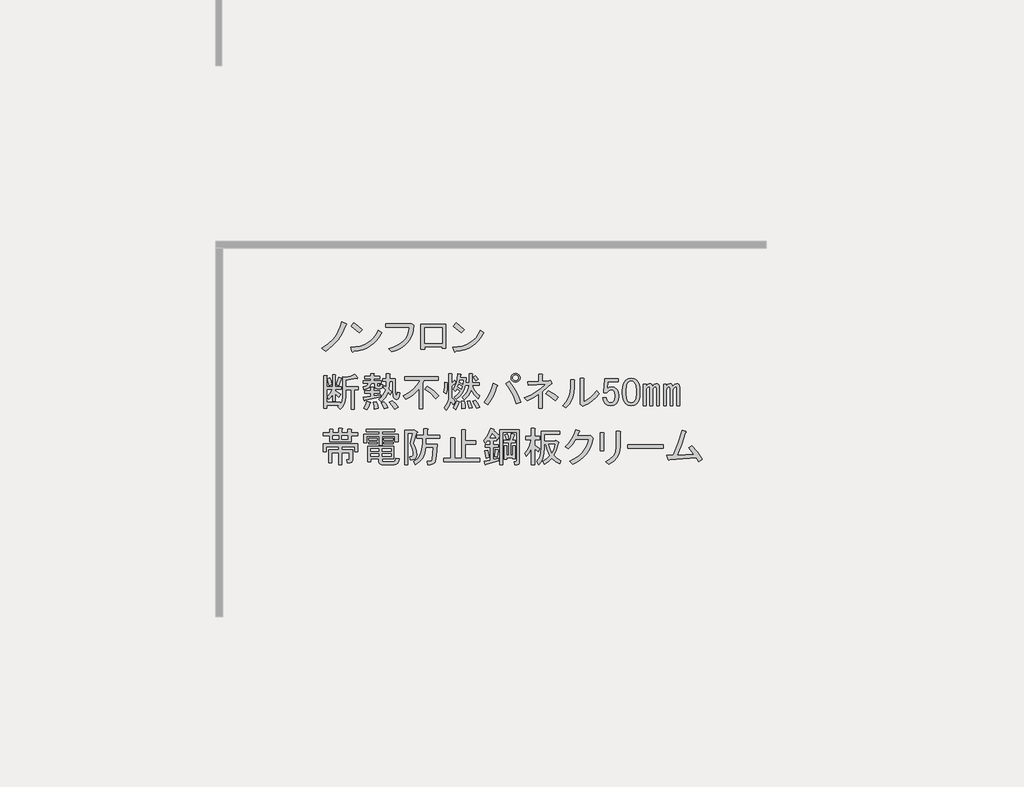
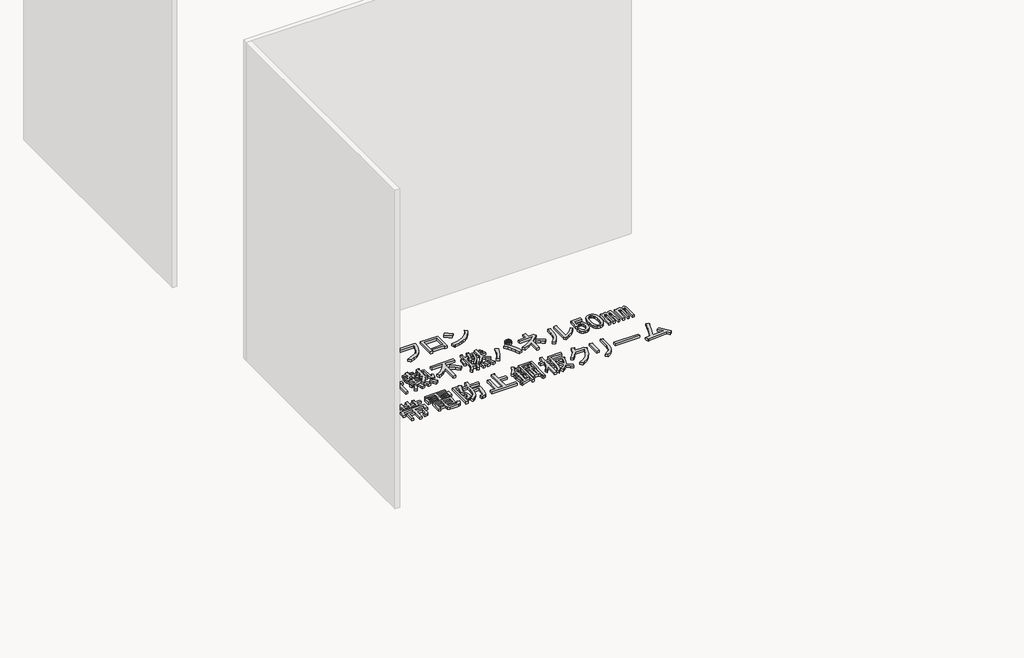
# One storey, part 9 of 117: 1 proxy.
"""IFC4 building model written with IfcOpenShell, lengths in millimetres."""

from ifc_helpers import new_model, si_unit, frame, origin, place, context, project, spatial, polyline, outline, extrude, element, save

model = new_model("IFC4")

# Units and contexts
model_context = context("Model", 3, world=origin())
ifc_project = project(units=[si_unit("LENGTHUNIT", "METRE", prefix="MILLI")], contexts=[model_context])

# Site, building, storey
site = spatial("IfcSite", under=ifc_project)
building = spatial("IfcBuilding", under=site)
storey = spatial("IfcBuildingStorey", under=building, Name="レベル 1", Elevation=500.0)

# Proxy
placement = place(None, origin())
element("IfcBuildingElementProxy", 1, Name="200㎜\u3000MS Pゴシック", ObjectType="200㎜\u3000MS Pゴシック", at=placement, inside=storey, context=model_context, shape_type="SweptSolid", body=[
    extrude(outline(polyline([(-15056.3293015, -24607.0496882), (-15081.9047498, -24666.8215225), (-15110.353844, -24712.7998566), (-15152.0217093, -24758.2034615), (-15201.1610538, -24795.560858), (-15228.7480543, -24773.7211493), (-15181.0455327, -24743.2605029), (-15141.3892195, -24704.7536481), (-15124.0036619, -24680.8305462), (-15108.6296565, -24652.7406577), (-15095.2672031, -24620.4839827), (-15083.9163019, -24584.0605212), (-15052.8809264, -24597.8540214), (-15049.7199159, -24602.4518548), (-15056.3293015, -24607.0496882)])), frame((0.0, 0.0, 500.0), z_axis=(0.0, 0.0, 1.0), x_axis=(1.0, 0.0, 0.0)), (0.0, 0.0, 1.0), 25.0),
    extrude(outline(polyline([(-14956.6022948, -24662.2236891), (-15015.2246708, -24615.0958967), (-14995.6838788, -24590.9572713), (-14968.3842429, -24610.7854279), (-14934.7625862, -24640.3839804), (-14956.6022948, -24662.2236891)])), frame((0.0, 0.0, 500.0), z_axis=(0.0, 0.0, 1.0), x_axis=(1.0, 0.0, 0.0)), (0.0, 0.0, 1.0), 25.0),
    extrude(outline(polyline([(-14794.5286672, -24662.2236891), (-14811.052131, -24691.965924), (-14830.1618761, -24717.9724192), (-14851.8579025, -24740.2431748), (-14876.1402102, -24758.7781907), (-14903.0087992, -24773.577467), (-14932.4636694, -24784.6410036), (-14964.504821, -24791.9688006), (-14999.1322539, -24795.560858), (-15004.8795456, -24803.6070664), (-15010.6268374, -24797.8597747), (-15019.8225042, -24767.9738575), (-14983.9917321, -24765.2977748), (-14951.2142088, -24758.9937141), (-14921.4899342, -24749.0616756), (-14894.8189084, -24735.5016591), (-14871.2011313, -24718.3136646), (-14850.636603, -24697.4976923), (-14833.1253234, -24673.053742), (-14818.6672926, -24644.9818138), (-14794.5286672, -24662.2236891)])), frame((0.0, 0.0, 500.0), z_axis=(0.0, 0.0, 1.0), x_axis=(1.0, 0.0, 0.0)), (0.0, 0.0, 1.0), 25.0),
    extrude(outline(polyline([(-14743.7685864, -24777.1695243), (-14709.985287, -24767.4889298), (-14680.4765359, -24755.1142922), (-14655.242333, -24740.0456116), (-14634.2826783, -24722.282888), (-14617.597572, -24701.8261214), (-14605.1870138, -24678.6753118), (-14597.0510039, -24652.8304591), (-14593.1895423, -24624.2915635), (-14765.6082951, -24624.2915635), (-14765.6082951, -24599.0034798), (-14590.8906256, -24599.0034798), (-14574.7982086, -24595.5551047), (-14562.1541668, -24607.0496882), (-14565.674383, -24643.5449909), (-14573.9361149, -24676.5919185), (-14586.9393625, -24706.1904711), (-14604.6841258, -24732.3406486), (-14627.1704048, -24755.042451), (-14654.3981995, -24774.2958784), (-14686.3675099, -24790.1009308), (-14723.078336, -24802.4576081), (-14743.7685864, -24777.1695243)])), frame((0.0, 0.0, 500.0), z_axis=(0.0, 0.0, 1.0), x_axis=(1.0, 0.0, 0.0)), (0.0, 0.0, 1.0), 25.0),
    extrude(outline(polyline([(-14329.044013, -24776.020066), (-14355.4815551, -24776.020066), (-14355.4815551, -24763.3760241), (-14483.0714321, -24763.3760241), (-14483.0714321, -24781.7673577), (-14509.5089742, -24781.7673577), (-14509.5089742, -24602.4518548), (-14329.044013, -24602.4518548), (-14329.044013, -24776.020066)]), holes=[polyline([(-14483.0714321, -24627.7399386), (-14483.0714321, -24738.0879404), (-14355.4815551, -24738.0879404), (-14355.4815551, -24627.7399386), (-14483.0714321, -24627.7399386)])]), frame((0.0, 0.0, 500.0), z_axis=(0.0, 0.0, 1.0), x_axis=(1.0, 0.0, 0.0)), (0.0, 0.0, 1.0), 25.0),
    extrude(outline(polyline([(-14052.9900951, -24662.2236891), (-14069.5135589, -24691.965924), (-14088.623304, -24717.9724192), (-14110.3193304, -24740.2431748), (-14134.6016381, -24758.7781907), (-14161.4702271, -24773.577467), (-14190.9250974, -24784.6410036), (-14222.9662489, -24791.9688006), (-14257.5936818, -24795.560858), (-14263.3409736, -24803.6070664), (-14269.0882653, -24797.8597747), (-14278.2839321, -24767.9738575), (-14242.4531601, -24765.2977748), (-14209.6756367, -24758.9937141), (-14179.9513622, -24749.0616756), (-14153.2803363, -24735.5016591), (-14129.6625593, -24718.3136646), (-14109.0980309, -24697.4976923), (-14091.5867514, -24673.053742), (-14077.1287205, -24644.9818138), (-14052.9900951, -24662.2236891)])), frame((0.0, 0.0, 500.0), z_axis=(0.0, 0.0, 1.0), x_axis=(1.0, 0.0, 0.0)), (0.0, 0.0, 1.0), 25.0),
    extrude(outline(polyline([(-14215.0637228, -24662.2236891), (-14273.6860987, -24615.0958967), (-14254.1453067, -24590.9572713), (-14226.8456709, -24610.7854279), (-14193.2240141, -24640.3839804), (-14215.0637228, -24662.2236891)])), frame((0.0, 0.0, 500.0), z_axis=(0.0, 0.0, 1.0), x_axis=(1.0, 0.0, 0.0)), (0.0, 0.0, 1.0), 25.0),
    extrude(outline(polyline([(-15122.9978859, -25039.2345221), (-15105.7560106, -24986.3594379), (-15085.0657603, -24992.1067296), (-15083.3415727, -24995.2677401), (-15087.364677, -24997.8540214), (-15104.6065523, -25046.1312722), (-15122.9978859, -25039.2345221)])), frame((0.0, 0.0, 500.0), z_axis=(0.0, 0.0, 1.0), x_axis=(1.0, 0.0, 0.0)), (0.0, 0.0, 1.0), 25.0),
    extrude(outline(polyline([(-14968.9704667, -24990.9572713), (-14970.6946542, -24995.5551047), (-14978.1661335, -24993.256188), (-15055.1798431, -25005.9002299), (-15055.1798431, -25055.326939), (-14963.2231749, -25055.326939), (-14963.2231749, -25077.1666477), (-14994.2585505, -25077.1666477), (-14994.2585505, -25217.4005666), (-15017.2477175, -25217.4005666), (-15017.2477175, -25077.1666477), (-15055.1798431, -25077.1666477), (-15055.1798431, -25126.5933568), (-15057.7661244, -25154.3958807), (-15065.5249683, -25179.1810764), (-15078.4563747, -25200.948944), (-15096.5603438, -25219.6994833), (-15113.8022191, -25200.1586914), (-15103.4570939, -25190.9630245), (-15193.1148454, -25190.9630245), (-15193.1148454, -25212.8027332), (-15216.1040124, -25212.8027332), (-15216.1040124, -24973.715396), (-15194.2643037, -24973.715396), (-15189.3791057, -24976.0143127), (-15193.1148454, -24980.6121461), (-15193.1148454, -25056.4763974), (-15150.5848863, -25056.4763974), (-15150.5848863, -24969.1175626), (-15132.1935527, -24969.1175626), (-15127.3083547, -24971.4164793), (-15131.0440943, -24976.0143127), (-15131.0440943, -25056.4763974), (-15087.364677, -25056.4763974), (-15087.364677, -25074.867731), (-15131.0440943, -25074.867731), (-15131.0440943, -25084.0633978), (-15090.813052, -25110.5009399), (-15104.6065523, -25132.3406486), (-15131.0440943, -25105.9031065), (-15131.0440943, -25158.7781907), (-15150.5848863, -25158.7781907), (-15150.5848863, -25110.5009399), (-15163.8036574, -25130.3290965), (-15178.1718868, -25146.1341488), (-15190.8159287, -25127.7428152), (-15168.97622, -25103.6041898), (-15151.7343447, -25074.867731), (-15193.1148454, -25074.867731), (-15193.1148454, -25169.1233159), (-15095.4108854, -25169.1233159), (-15095.4108854, -25182.9168161), (-15082.479479, -25158.7781907), (-15078.1690102, -25125.4438985), (-15078.1690102, -24980.6121461), (-15056.3293015, -24986.3594379), (-15020.1213634, -24978.8879586), (-14989.660717, -24965.6691875), (-14968.9704667, -24990.9572713)])), frame((0.0, 0.0, 500.0), z_axis=(0.0, 0.0, 1.0), x_axis=(1.0, 0.0, 0.0)), (0.0, 0.0, 1.0), 25.0),
    extrude(outline(polyline([(-15177.0224284, -25047.2807305), (-15189.6664703, -24996.7045631), (-15170.1256783, -24989.8078129), (-15162.3668344, -25013.9464383), (-15157.4816364, -25040.3839804), (-15177.0224284, -25047.2807305)])), frame((0.0, 0.0, 500.0), z_axis=(0.0, 0.0, 1.0), x_axis=(1.0, 0.0, 0.0)), (0.0, 0.0, 1.0), 25.0),
    extrude(outline(polyline([(-14878.1632569, -25167.9738575), (-14874.7148818, -25172.8590555), (-14880.4621736, -25176.020066), (-14890.2325696, -25201.5955143), (-14901.1524239, -25220.8489417), (-14924.141591, -25209.3543582), (-14911.4975491, -25185.790462), (-14901.1524239, -25158.7781907), (-14878.1632569, -25167.9738575)])), frame((0.0, 0.0, 500.0), z_axis=(0.0, 0.0, 1.0), x_axis=(1.0, 0.0, 0.0)), (0.0, 0.0, 1.0), 25.0),
    extrude(outline(polyline([(-14833.3343812, -25163.3760241), (-14823.2766206, -25190.67566), (-14818.3914226, -25212.8027332), (-14847.1278814, -25218.550025), (-14849.7141627, -25196.9976809), (-14857.4730066, -25166.8243992), (-14833.3343812, -25163.3760241)])), frame((0.0, 0.0, 500.0), z_axis=(0.0, 0.0, 1.0), x_axis=(1.0, 0.0, 0.0)), (0.0, 0.0, 1.0), 25.0),
    extrude(outline(polyline([(-14718.388546, -25157.6287323), (-14693.6751914, -25178.8937119), (-14674.7091286, -25203.6070664), (-14701.1466707, -25218.550025), (-14720.4000981, -25188.9514724), (-14739.0787963, -25169.1233159), (-14718.388546, -25157.6287323)])), frame((0.0, 0.0, 500.0), z_axis=(0.0, 0.0, 1.0), x_axis=(1.0, 0.0, 0.0)), (0.0, 0.0, 1.0), 25.0),
    extrude(outline(polyline([(-14777.0109219, -25216.2511083), (-14785.344495, -25191.5377537), (-14798.8506306, -25170.2727742), (-14778.1603803, -25162.2265657), (-14761.2058696, -25183.7789098), (-14749.4239215, -25207.0554415), (-14777.0109219, -25216.2511083)])), frame((0.0, 0.0, 500.0), z_axis=(0.0, 0.0, 1.0), x_axis=(1.0, 0.0, 0.0)), (0.0, 0.0, 1.0), 25.0),
    extrude(outline(polyline([(-14916.0953825, -25153.0308989), (-14918.1069346, -25157.9160969), (-14921.8426743, -25156.479274), (-14927.589966, -25132.3406486), (-14872.4159651, -25124.2944401), (-14872.4159651, -25101.3052731), (-14916.0953825, -25101.3052731), (-14916.0953825, -25082.9139395), (-14872.4159651, -25082.9139395), (-14872.4159651, -25059.9247724), (-14854.0246315, -25059.9247724), (-14849.1394335, -25062.2236891), (-14852.8751732, -25066.8215225), (-14852.8751732, -25082.9139395), (-14808.0462974, -25082.9139395), (-14808.0462974, -25101.3052731), (-14852.8751732, -25101.3052731), (-14852.8751732, -25120.8460651), (-14802.2990057, -25111.6503983), (-14802.2990057, -25127.7428152), (-14916.0953825, -25153.0308989)])), frame((0.0, 0.0, 500.0), z_axis=(0.0, 0.0, 1.0), x_axis=(1.0, 0.0, 0.0)), (0.0, 0.0, 1.0), 25.0),
    extrude(outline(polyline([(-14845.978423, -25031.1883136), (-14871.2665068, -25031.1883136), (-14875.8643402, -25048.6457123), (-14886.2094654, -25061.9363245), (-14902.3018823, -25071.0601502), (-14924.141591, -25076.0171893), (-14928.7394244, -25056.4763974), (-14903.4513406, -25047.8554597), (-14895.9798614, -25040.5276627), (-14891.9567571, -25031.1883136), (-14927.589966, -25031.1883136), (-14927.589966, -25012.79698), (-14873.5654235, -25012.79698), (-14873.5654235, -24995.5551047), (-14917.2448409, -24995.5551047), (-14917.2448409, -24977.1637711), (-14873.5654235, -24977.1637711), (-14873.5654235, -24958.7724374), (-14851.7257148, -24958.7724374), (-14846.8405168, -24961.0713541), (-14850.5762564, -24965.6691875), (-14850.5762564, -24977.1637711), (-14808.0462974, -24977.1637711), (-14808.0462974, -24995.5551047), (-14850.5762564, -24995.5551047), (-14850.5762564, -25012.79698), (-14797.7011723, -25012.79698), (-14797.7011723, -25031.1883136), (-14826.4376311, -25031.1883136), (-14826.4376311, -25043.8323555), (-14825.0008081, -25049.0049181), (-14820.6903393, -25050.7291056), (-14810.3452141, -25050.7291056), (-14806.6094745, -25047.5680951), (-14806.8968391, -25038.0850637), (-14787.3560471, -25040.3839804), (-14790.229693, -25061.9363245), (-14795.5459378, -25067.3244106), (-14803.448464, -25069.1204392), (-14827.5870894, -25069.1204392), (-14841.3805896, -25064.2352412), (-14845.978423, -25049.5796472), (-14845.978423, -25031.1883136)])), frame((0.0, 0.0, 500.0), z_axis=(0.0, 0.0, 1.0), x_axis=(1.0, 0.0, 0.0)), (0.0, 0.0, 1.0), 25.0),
    extrude(outline(polyline([(-14714.9401709, -25013.9464383), (-14736.7798796, -25013.9464383), (-14741.377713, -25071.4193559), (-14721.836921, -25089.8106896), (-14732.1820462, -25111.6503983), (-14748.2744631, -25095.5579813), (-14767.5278905, -25133.2027424), (-14797.7011723, -25165.6749408), (-14814.9430475, -25144.9846905), (-14799.8564067, -25133.0590601), (-14786.7813179, -25117.9724192), (-14775.7177813, -25099.7247679), (-14766.6657967, -25078.316106), (-14783.907672, -25063.3731475), (-14775.8614636, -25046.1312722), (-14762.0679633, -25056.4763974), (-14759.7690466, -25013.9464383), (-14787.3560471, -25013.9464383), (-14787.3560471, -24995.5551047), (-14759.7690466, -24995.5551047), (-14759.7690466, -24961.0713541), (-14737.9293379, -24961.0713541), (-14733.04414, -24963.3702708), (-14736.7798796, -24967.9681043), (-14736.7798796, -24995.5551047), (-14695.3993789, -24995.5551047), (-14695.3993789, -25092.1096063), (-14691.9510039, -25116.2482317), (-14688.7181523, -25118.2597838), (-14685.9163475, -25115.0987733), (-14681.6058787, -25093.2590646), (-14662.0650867, -25100.1558147), (-14666.591079, -25126.9525626), (-14674.421764, -25142.9731384), (-14685.5571418, -25148.2175421), (-14699.9972123, -25142.6857738), (-14706.5347567, -25135.3579768), (-14711.2044313, -25123.719711), (-14714.9401709, -25087.5117729), (-14714.9401709, -25013.9464383)])), frame((0.0, 0.0, 500.0), z_axis=(0.0, 0.0, 1.0), x_axis=(1.0, 0.0, 0.0)), (0.0, 0.0, 1.0), 25.0),
    extrude(outline(polyline([(-14626.4318778, -24980.6121461), (-14385.0456239, -24980.6121461), (-14385.0456239, -25005.9002299), (-14485.0485005, -25005.9002299), (-14495.3936257, -25030.0388553), (-14495.3936257, -25216.2511083), (-14521.8311678, -25216.2511083), (-14521.8311678, -25069.1204392), (-14542.6651004, -25092.3969709), (-14566.0853143, -25112.7998566), (-14592.0918095, -25130.3290965), (-14620.684586, -25144.9846905), (-14636.777003, -25118.5471484), (-14597.192531, -25098.1442626), (-14563.499033, -25072.5688143), (-14535.6965091, -25041.8208034), (-14513.7849593, -25005.9002299), (-14626.4318778, -25005.9002299), (-14626.4318778, -24980.6121461)])), frame((0.0, 0.0, 500.0), z_axis=(0.0, 0.0, 1.0), x_axis=(1.0, 0.0, 0.0)), (0.0, 0.0, 1.0), 25.0),
    extrude(outline(polyline([(-14399.9885824, -25141.5363154), (-14439.0701664, -25103.3168252), (-14480.4506671, -25073.7182726), (-14464.3582502, -25053.0280223), (-14420.6788328, -25081.1897519), (-14379.2983321, -25119.6966067), (-14399.9885824, -25141.5363154)])), frame((0.0, 0.0, 500.0), z_axis=(0.0, 0.0, 1.0), x_axis=(1.0, 0.0, 0.0)), (0.0, 0.0, 1.0), 25.0),
    extrude(outline(polyline([(-14232.167663, -25163.3760241), (-14240.7886007, -25193.8366704), (-14255.1568301, -25220.8489417), (-14274.6976221, -25208.2048998), (-14260.6167573, -25183.4915453), (-14250.5589967, -25155.3298156), (-14232.167663, -25163.3760241)])), frame((0.0, 0.0, 500.0), z_axis=(0.0, 0.0, 1.0), x_axis=(1.0, 0.0, 0.0)), (0.0, 0.0, 1.0), 25.0),
    extrude(outline(polyline([(-14317.2275811, -25025.4410219), (-14312.6297477, -25027.7399386), (-14317.2275811, -25032.337772), (-14318.3770395, -25071.9940851), (-14324.1243312, -25105.9031065), (-14342.5156648, -25093.2590646), (-14336.7683731, -25058.7753141), (-14335.6189147, -25021.9926468), (-14317.2275811, -25025.4410219)])), frame((0.0, 0.0, 500.0), z_axis=(0.0, 0.0, 1.0), x_axis=(1.0, 0.0, 0.0)), (0.0, 0.0, 1.0), 25.0),
    extrude(outline(polyline([(-14265.5019553, -25007.0496882), (-14256.3062884, -25024.2915635), (-14254.8694655, -25030.3262199), (-14259.7546635, -25030.0388553), (-14286.1922056, -25050.7291056), (-14286.1922056, -25134.6395653), (-14272.3987054, -25146.9962426), (-14260.9041219, -25163.3760241), (-14273.5481637, -25184.0662744), (-14291.9394974, -25158.7781907), (-14303.7214455, -25194.6987642), (-14325.2737896, -25224.2973168), (-14340.2167481, -25205.9059831), (-14325.1301073, -25187.1554438), (-14314.3539352, -25166.5370346), (-14307.888232, -25144.0507556), (-14305.7329976, -25119.6966067), (-14305.7329976, -24962.2208125), (-14287.3416639, -24962.2208125), (-14282.456466, -24964.5197292), (-14286.1922056, -24969.1175626), (-14286.1922056, -25027.7399386), (-14265.5019553, -25007.0496882)])), frame((0.0, 0.0, 500.0), z_axis=(0.0, 0.0, 1.0), x_axis=(1.0, 0.0, 0.0)), (0.0, 0.0, 1.0), 25.0),
    extrude(outline(polyline([(-14114.9229111, -24976.0143127), (-14093.0832025, -25000.1529381), (-14110.3250777, -25011.6475216), (-14116.9344633, -25000.1529381), (-14129.8658697, -24986.3594379), (-14114.9229111, -24976.0143127)])), frame((0.0, 0.0, 500.0), z_axis=(0.0, 0.0, 1.0), x_axis=(1.0, 0.0, 0.0)), (0.0, 0.0, 1.0), 25.0),
    extrude(outline(polyline([(-14104.577786, -25212.8027332), (-14117.796557, -25184.6410036), (-14134.4637031, -25159.927649), (-14116.0723695, -25151.8814406), (-14097.1063067, -25174.8706076), (-14081.5886189, -25202.4576081), (-14104.577786, -25212.8027332)])), frame((0.0, 0.0, 500.0), z_axis=(0.0, 0.0, 1.0), x_axis=(1.0, 0.0, 0.0)), (0.0, 0.0, 1.0), 25.0),
    extrude(outline(polyline([(-14154.0044951, -25157.6287323), (-14135.6131615, -25207.0554415), (-14159.7517869, -25211.6532749), (-14173.5452871, -25161.0771074), (-14154.0044951, -25157.6287323)])), frame((0.0, 0.0, 500.0), z_axis=(0.0, 0.0, 1.0), x_axis=(1.0, 0.0, 0.0)), (0.0, 0.0, 1.0), 25.0),
    extrude(outline(polyline([(-14212.6268711, -25215.1016499), (-14212.0521419, -25188.0893787), (-14214.9257878, -25159.927649), (-14195.3849958, -25158.7781907), (-14189.0629748, -25184.9283682), (-14188.4882457, -25212.8027332), (-14212.6268711, -25215.1016499)])), frame((0.0, 0.0, 500.0), z_axis=(0.0, 0.0, 1.0), x_axis=(1.0, 0.0, 0.0)), (0.0, 0.0, 1.0), 25.0),
    extrude(outline(polyline([(-14093.0832025, -25142.6857738), (-14123.8312134, -25112.2251274), (-14144.8088283, -25078.316106), (-14153.2142425, -25100.4431793), (-14164.6369849, -25119.6966067), (-14179.0770554, -25136.0763882), (-14196.5344541, -25149.5825239), (-14210.3279544, -25131.1911902), (-14189.4940217, -25112.2969686), (-14174.1200163, -25091.2475125), (-14164.205938, -25068.042822), (-14159.7517869, -25042.6828971), (-14188.4882457, -25042.6828971), (-14196.462613, -25073.2872258), (-14210.0405898, -25100.7305439), (-14229.222176, -25125.0128516), (-14254.0073717, -25146.1341488), (-14266.6514136, -25130.0417319), (-14240.7886007, -25108.4893878), (-14225.2709129, -25087.5117729), (-14247.1106216, -25067.9709809), (-14260.9041219, -25088.6612312), (-14274.6976221, -25073.7182726), (-14262.2691036, -25054.6803687), (-14252.5705488, -25029.7514907), (-14245.6019575, -24998.9316386), (-14241.3633299, -24962.2208125), (-14220.6730795, -24964.5197292), (-14217.2247045, -24967.1060105), (-14222.9719962, -24970.267021), (-14225.2709129, -24988.6583546), (-14181.5914956, -24988.6583546), (-14185.0398706, -25024.2915635), (-14159.7517869, -25024.2915635), (-14159.7517869, -24962.2208125), (-14137.9120782, -24962.2208125), (-14133.0268802, -24964.5197292), (-14136.7626198, -24969.1175626), (-14136.7626198, -25024.2915635), (-14087.3359107, -25024.2915635), (-14087.3359107, -25042.6828971), (-14136.7626198, -25042.6828971), (-14130.2250755, -25064.4507647), (-14118.6586508, -25084.9254916), (-14102.0633458, -25104.1070778), (-14080.4391606, -25121.9955234), (-14093.0832025, -25142.6857738)]), holes=[polyline([(-14217.2247045, -25072.5688143), (-14210.3279544, -25053.0280223), (-14235.6160381, -25036.9356054), (-14241.3633299, -25054.1774807), (-14217.2247045, -25072.5688143)]), polyline([(-14227.5698296, -25007.0496882), (-14231.0182047, -25023.1421052), (-14205.730121, -25036.9356054), (-14201.1322875, -25007.0496882), (-14227.5698296, -25007.0496882)])]), frame((0.0, 0.0, 500.0), z_axis=(0.0, 0.0, 1.0), x_axis=(1.0, 0.0, 0.0)), (0.0, 0.0, 1.0), 25.0),
    extrude(outline(polyline([(-13867.7893655, -25016.245355), (-13841.1362999, -25052.9561812), (-13818.6500209, -25090.6727833), (-13800.3305284, -25129.3951616), (-13786.1778225, -25169.1233159), (-13817.213198, -25179.468441), (-13832.6590446, -25136.3637528), (-13850.2601256, -25097.856898), (-13870.016441, -25063.9478766), (-13891.9279908, -25034.6366887), (-13867.7893655, -25016.245355)])), frame((0.0, 0.0, 500.0), z_axis=(0.0, 0.0, 1.0), x_axis=(1.0, 0.0, 0.0)), (0.0, 0.0, 1.0), 25.0),
    extrude(outline(polyline([(-13955.1482002, -25042.6828971), (-13951.125096, -25048.1428243), (-13957.4471169, -25053.0280223), (-13969.3727473, -25088.4457078), (-13984.4593882, -25122.282888), (-14002.7070395, -25154.539563), (-14024.1157013, -25185.2157328), (-14050.5532434, -25167.9738575), (-14027.3485529, -25136.5074351), (-14008.310649, -25103.0294606), (-13993.4395316, -25067.539934), (-13982.7352007, -25030.0388553), (-13955.1482002, -25042.6828971)])), frame((0.0, 0.0, 500.0), z_axis=(0.0, 0.0, 1.0), x_axis=(1.0, 0.0, 0.0)), (0.0, 0.0, 1.0), 25.0),
    extrude(outline(polyline([(-13821.8110314, -25021.9926468), (-13834.4550732, -25019.6937301), (-13844.8001984, -25012.79698), (-13851.6969485, -25002.4518548), (-13853.9958652, -24989.8078129), (-13851.6969485, -24977.1637711), (-13844.8001984, -24966.8186459), (-13834.4550732, -24959.9218958), (-13821.8110314, -24957.6229791), (-13809.1669895, -24959.9218958), (-13798.8218643, -24966.8186459), (-13791.9251142, -24977.1637711), (-13789.6261975, -24989.8078129), (-13791.9251142, -25002.4518548), (-13798.8218643, -25012.79698), (-13809.1669895, -25019.6937301), (-13821.8110314, -25021.9926468)]), holes=[polyline([(-13821.8110314, -25010.4980633), (-13813.4774583, -25009.0612403), (-13806.8680728, -25004.7507715), (-13802.557604, -24998.141386), (-13801.120781, -24989.8078129), (-13802.557604, -24981.4742399), (-13806.8680728, -24974.8648544), (-13813.4774583, -24970.5543855), (-13821.8110314, -24969.1175626), (-13830.1446044, -24970.5543855), (-13836.7539899, -24974.8648544), (-13841.0644588, -24981.4742399), (-13842.5012817, -24989.8078129), (-13841.0644588, -24998.141386), (-13836.7539899, -25004.7507715), (-13830.1446044, -25009.0612403), (-13821.8110314, -25010.4980633)])]), frame((0.0, 0.0, 500.0), z_axis=(0.0, 0.0, 1.0), x_axis=(1.0, 0.0, 0.0)), (0.0, 0.0, 1.0), 25.0),
    extrude(outline(polyline([(-13578.1258607, -25011.6475216), (-13571.2291106, -25009.3486049), (-13558.5850688, -25026.5904802), (-13557.4356104, -25032.6251366), (-13563.1829022, -25034.6366887), (-13626.4031115, -25090.9601479), (-13626.4031115, -25211.6532749), (-13652.8406536, -25211.6532749), (-13652.8406536, -25109.3514816), (-13693.0716959, -25133.4901069), (-13737.9005717, -25155.3298156), (-13757.4413637, -25134.6395653), (-13711.8940765, -25115.1706145), (-13670.6572581, -25092.3969709), (-13633.7309085, -25066.3186345), (-13601.1150278, -25036.9356054), (-13731.0038216, -25042.6828971), (-13734.4521966, -25017.3948134), (-13652.8406536, -25015.0958967), (-13652.8406536, -24963.3702708), (-13629.8514866, -24963.3702708), (-13623.8168302, -24966.8186459), (-13626.4031115, -24972.5659377), (-13626.4031115, -25013.9464383), (-13578.1258607, -25011.6475216)])), frame((0.0, 0.0, 500.0), z_axis=(0.0, 0.0, 1.0), x_axis=(1.0, 0.0, 0.0)), (0.0, 0.0, 1.0), 25.0),
    extrude(outline(polyline([(-13532.1475267, -25155.3298156), (-13569.2175585, -25126.0186277), (-13602.2644861, -25104.7536481), (-13585.0226108, -25082.9139395), (-13546.2283915, -25106.1904711), (-13512.6067347, -25132.3406486), (-13532.1475267, -25155.3298156)])), frame((0.0, 0.0, 500.0), z_axis=(0.0, 0.0, 1.0), x_axis=(1.0, 0.0, 0.0)), (0.0, 0.0, 1.0), 25.0),
    extrude(outline(polyline([(-13325.1530666, -25162.2265657), (-13300.3678709, -25150.0135708), (-13276.5884512, -25132.9153778), (-13253.8148076, -25110.9319868), (-13232.0469401, -25084.0633978), (-13215.9545232, -25105.9031065), (-13239.2310548, -25133.7056304), (-13265.3812323, -25157.3413678), (-13294.4050557, -25176.8103186), (-13326.302525, -25192.1124829), (-13335.4981918, -25196.7103163), (-13353.8895254, -25182.9168161), (-13351.5906087, -25177.1695243), (-13351.5906087, -24992.1067296), (-13327.4519833, -24992.1067296), (-13321.7046916, -24995.5551047), (-13325.1530666, -25001.3023965), (-13325.1530666, -25162.2265657)])), frame((0.0, 0.0, 500.0), z_axis=(0.0, 0.0, 1.0), x_axis=(1.0, 0.0, 0.0)), (0.0, 0.0, 1.0), 25.0),
    extrude(outline(polyline([(-13479.1804858, -25193.2619413), (-13454.0360843, -25164.0225944), (-13436.0757976, -25131.4785548), (-13425.2996255, -25095.6298225), (-13421.7075682, -25056.4763974), (-13421.7075682, -25004.7507715), (-13397.5689428, -25004.7507715), (-13391.821651, -25008.1991466), (-13395.2700261, -25013.9464383), (-13395.2700261, -25055.326939), (-13399.0776069, -25101.0897496), (-13410.5003493, -25141.82368), (-13429.5382532, -25177.5287301), (-13456.1913188, -25208.2048998), (-13479.1804858, -25193.2619413)])), frame((0.0, 0.0, 500.0), z_axis=(0.0, 0.0, 1.0), x_axis=(1.0, 0.0, 0.0)), (0.0, 0.0, 1.0), 25.0),
    extrude(outline(polyline([(-13174.5740225, -24995.5551047), (-13075.7206042, -24995.5551047), (-13075.7206042, -25017.3948134), (-13152.7343138, -25017.3948134), (-13152.7343138, -25020.8431884), (-13156.1826889, -25063.3731475), (-13157.3321472, -25070.2698976), (-13141.8144595, -25059.9247724), (-13125.1473134, -25056.4763974), (-13104.1696984, -25060.212137), (-13087.2151877, -25071.4193559), (-13075.145875, -25091.2475125), (-13071.1227708, -25118.5471484), (-13076.2953334, -25153.0308989), (-13082.7610366, -25166.8243992), (-13091.8130212, -25178.3189827), (-13109.9169902, -25190.3882954), (-13132.0440635, -25194.4113996), (-13153.0216784, -25190.67566), (-13169.9761891, -25179.468441), (-13182.0455018, -25160.7897428), (-13188.3675227, -25134.6395653), (-13161.9299806, -25134.6395653), (-13157.9068764, -25153.3182635), (-13150.4353971, -25165.6749408), (-13142.6765532, -25170.8475034), (-13133.1935218, -25172.5716909), (-13120.8368445, -25170.5601388), (-13111.3538131, -25164.5254825), (-13101.8707817, -25147.5709718), (-13098.7097713, -25121.9955234), (-13101.2960526, -25097.856898), (-13109.0548964, -25082.9139395), (-13116.5263757, -25077.7413769), (-13125.1473134, -25076.0171893), (-13138.0787198, -25078.6034706), (-13149.2859388, -25086.3623145), (-13158.4816056, -25096.7074397), (-13181.4707726, -25096.7074397), (-13180.3213143, -25088.6612312), (-13174.5740225, -25000.1529381), (-13174.5740225, -24995.5551047)])), frame((0.0, 0.0, 500.0), z_axis=(0.0, 0.0, 1.0), x_axis=(1.0, 0.0, 0.0)), (0.0, 0.0, 1.0), 25.0),
    extrude(outline(polyline([(-13045.8346871, -25081.7644811), (-13044.3978641, -25058.2005849), (-13040.0873953, -25038.0850637), (-13032.9032806, -25021.4179176), (-13022.84552, -25008.1991466), (-13004.741551, -24996.1298339), (-12982.6144777, -24992.1067296), (-12960.4874044, -24996.1298339), (-12942.3834354, -25008.1991466), (-12932.3256748, -25021.4179176), (-12925.1415601, -25038.0850637), (-12920.8310913, -25058.2005849), (-12919.3942683, -25081.7644811), (-12919.3942683, -25104.7536481), (-12920.8310913, -25127.8146563), (-12925.1415601, -25147.5709718), (-12932.3256748, -25164.0225944), (-12942.3834354, -25177.1695243), (-12960.4874044, -25189.238837), (-12982.6144777, -25193.2619413), (-13004.741551, -25189.238837), (-13022.84552, -25177.1695243), (-13032.9032806, -25164.0225944), (-13040.0873953, -25147.5709718), (-13044.3978641, -25127.8146563), (-13045.8346871, -25104.7536481), (-13045.8346871, -25081.7644811)]), holes=[polyline([(-12982.6144777, -25013.9464383), (-12993.5343321, -25016.245355), (-13003.304728, -25023.1421052), (-13009.8422724, -25032.2659308), (-13014.511947, -25044.6944493), (-13018.2476866, -25079.4655644), (-13018.2476866, -25105.9031065), (-13014.2245824, -25140.0994925), (-13009.1957021, -25152.6716932), (-13002.1552697, -25162.2265657), (-12992.6722383, -25169.1233159), (-12982.6144777, -25171.4222326), (-12971.6946234, -25169.1233159), (-12961.9242274, -25162.2265657), (-12955.386683, -25153.1027401), (-12950.7170084, -25140.6742216), (-12946.9812688, -25105.9031065), (-12946.9812688, -25079.4655644), (-12950.7170084, -25044.6944493), (-12955.386683, -25032.2659308), (-12961.9242274, -25023.1421052), (-12971.6946234, -25016.245355), (-12982.6144777, -25013.9464383)])]), frame((0.0, 0.0, 500.0), z_axis=(0.0, 0.0, 1.0), x_axis=(1.0, 0.0, 0.0)), (0.0, 0.0, 1.0), 25.0),
    extrude(outline(polyline([(-12652.7199307, -25032.337772), (-12644.3863576, -25033.7745949), (-12637.7769721, -25038.0850637), (-12632.6044095, -25046.7060014), (-12630.880222, -25058.7753141), (-12630.880222, -25193.2619413), (-12650.421014, -25193.2619413), (-12650.421014, -25069.1204392), (-12653.0072953, -25059.6374078), (-12660.7661391, -25056.4763974), (-12671.1112643, -25061.0742308), (-12677.1459207, -25069.6951684), (-12679.1574728, -25079.4655644), (-12679.1574728, -25193.2619413), (-12698.6982648, -25193.2619413), (-12698.6982648, -25069.1204392), (-12701.284546, -25059.6374078), (-12709.0433899, -25056.4763974), (-12719.3885151, -25061.0742308), (-12725.4231714, -25069.6951684), (-12727.4347236, -25079.4655644), (-12727.4347236, -25193.2619413), (-12746.9755155, -25193.2619413), (-12746.9755155, -25035.786147), (-12727.4347236, -25035.786147), (-12727.4347236, -25053.0280223), (-12715.3654109, -25037.5103346), (-12702.1466398, -25032.337772), (-12692.950973, -25033.7745949), (-12686.0542229, -25038.0850637), (-12679.1574728, -25051.878564), (-12666.2260663, -25037.22297), (-12652.7199307, -25032.337772)])), frame((0.0, 0.0, 500.0), z_axis=(0.0, 0.0, 1.0), x_axis=(1.0, 0.0, 0.0)), (0.0, 0.0, 1.0), 25.0),
    extrude(outline(polyline([(-12874.5653926, -25193.2619413), (-12894.1061846, -25193.2619413), (-12894.1061846, -25035.786147), (-12874.5653926, -25035.786147), (-12874.5653926, -25053.0280223), (-12862.4960799, -25037.5103346), (-12849.2773089, -25032.337772), (-12840.0816421, -25033.7745949), (-12833.1848919, -25038.0850637), (-12826.2881418, -25051.878564), (-12813.3567354, -25037.22297), (-12799.8505997, -25032.337772), (-12791.5170267, -25033.7745949), (-12784.9076412, -25038.0850637), (-12779.7350786, -25046.7060014), (-12778.010891, -25058.7753141), (-12778.010891, -25193.2619413), (-12797.551683, -25193.2619413), (-12797.551683, -25069.1204392), (-12800.1379643, -25059.6374078), (-12807.8968082, -25056.4763974), (-12818.2419334, -25061.0742308), (-12824.2765897, -25069.6951684), (-12826.2881418, -25079.4655644), (-12826.2881418, -25193.2619413), (-12845.8289338, -25193.2619413), (-12845.8289338, -25069.1204392), (-12848.4152151, -25059.6374078), (-12856.174059, -25056.4763974), (-12866.5191842, -25061.0742308), (-12872.5538405, -25069.6951684), (-12874.5653926, -25079.4655644), (-12874.5653926, -25193.2619413)])), frame((0.0, 0.0, 500.0), z_axis=(0.0, 0.0, 1.0), x_axis=(1.0, 0.0, 0.0)), (0.0, 0.0, 1.0), 25.0),
    extrude(outline(polyline([(-15172.424595, -25453.0280223), (-15172.424595, -25432.337772), (-15172.424595, -25411.6475216), (-15218.4029291, -25411.6475216), (-15218.4029291, -25389.8078129), (-15172.424595, -25389.8078129), (-15172.424595, -25364.5197292), (-15150.5848863, -25364.5197292), (-15145.6996883, -25366.8186459), (-15149.435428, -25371.4164793), (-15149.435428, -25389.8078129), (-15105.7560106, -25389.8078129), (-15105.7560106, -25357.6229791), (-15083.9163019, -25357.6229791), (-15079.0311039, -25359.9218958), (-15082.7668436, -25364.5197292), (-15082.7668436, -25389.8078129), (-15040.2368845, -25389.8078129), (-15040.2368845, -25364.5197292), (-15018.3971758, -25364.5197292), (-15013.5119779, -25366.8186459), (-15017.2477175, -25371.4164793), (-15017.2477175, -25389.8078129), (-14970.1199251, -25389.8078129), (-14970.1199251, -25411.6475216), (-15017.2477175, -25411.6475216), (-15017.2477175, -25453.0280223), (-15172.424595, -25453.0280223)]), holes=[polyline([(-15105.7560106, -25411.6475216), (-15149.435428, -25411.6475216), (-15149.435428, -25434.6366887), (-15105.7560106, -25434.6366887), (-15105.7560106, -25411.6475216)]), polyline([(-15040.2368845, -25411.6475216), (-15082.7668436, -25411.6475216), (-15082.7668436, -25434.6366887), (-15040.2368845, -25434.6366887), (-15040.2368845, -25411.6475216)])]), frame((0.0, 0.0, 500.0), z_axis=(0.0, 0.0, 1.0), x_axis=(1.0, 0.0, 0.0)), (0.0, 0.0, 1.0), 25.0),
    extrude(outline(polyline([(-14967.8210084, -25526.5933568), (-14990.8101754, -25526.5933568), (-14990.8101754, -25489.8106896), (-15082.7668436, -25489.8106896), (-15082.7668436, -25513.949315), (-15005.753134, -25513.949315), (-15005.753134, -25588.6641078), (-15010.3509674, -25602.4576081), (-15024.1444676, -25607.0554415), (-15045.9841763, -25607.0554415), (-15049.4325514, -25585.2157328), (-15033.3401344, -25585.2157328), (-15029.8917594, -25584.0662744), (-15028.742301, -25580.6178994), (-15028.742301, -25535.7890237), (-15082.7668436, -25535.7890237), (-15082.7668436, -25623.1478584), (-15105.7560106, -25623.1478584), (-15105.7560106, -25535.7890237), (-15157.4816364, -25535.7890237), (-15157.4816364, -25608.2048998), (-15180.4708035, -25608.2048998), (-15180.4708035, -25513.949315), (-15105.7560106, -25513.949315), (-15105.7560106, -25489.8106896), (-15197.7126788, -25489.8106896), (-15197.7126788, -25526.5933568), (-15220.7018458, -25526.5933568), (-15220.7018458, -25467.9709809), (-14967.8210084, -25467.9709809), (-14967.8210084, -25526.5933568)])), frame((0.0, 0.0, 500.0), z_axis=(0.0, 0.0, 1.0), x_axis=(1.0, 0.0, 0.0)), (0.0, 0.0, 1.0), 25.0),
    extrude(outline(polyline([(-14666.6629201, -25578.3189827), (-14669.4647249, -25596.9258397), (-14676.7206807, -25610.2164519), (-14688.4307877, -25618.1908193), (-14704.5950457, -25620.8489417), (-14794.2527972, -25620.8489417), (-14809.770485, -25615.9637437), (-14813.6499069, -25609.8572462), (-14814.9430475, -25601.3081497), (-14814.9430475, -25579.468441), (-14874.7148818, -25579.468441), (-14874.7148818, -25599.009233), (-14894.2556738, -25599.009233), (-14894.2556738, -25486.3623145), (-14706.8939624, -25486.3623145), (-14706.8939624, -25579.468441), (-14791.9538805, -25579.468441), (-14791.9538805, -25589.8135662), (-14789.9423284, -25596.7103163), (-14783.907672, -25599.009233), (-14708.0434208, -25599.009233), (-14701.4340353, -25597.4287278), (-14696.5488373, -25592.6872121), (-14691.9510039, -25573.7211493), (-14666.6629201, -25578.3189827)]), holes=[polyline([(-14874.7148818, -25561.0771074), (-14814.9430475, -25561.0771074), (-14814.9430475, -25541.5363154), (-14874.7148818, -25541.5363154), (-14874.7148818, -25561.0771074)]), polyline([(-14874.7148818, -25523.1449818), (-14814.9430475, -25523.1449818), (-14814.9430475, -25504.7536481), (-14874.7148818, -25504.7536481), (-14874.7148818, -25523.1449818)]), polyline([(-14791.9538805, -25561.0771074), (-14726.4347544, -25561.0771074), (-14726.4347544, -25541.5363154), (-14791.9538805, -25541.5363154), (-14791.9538805, -25561.0771074)]), polyline([(-14791.9538805, -25523.1449818), (-14726.4347544, -25523.1449818), (-14726.4347544, -25504.7536481), (-14791.9538805, -25504.7536481), (-14791.9538805, -25523.1449818)])]), frame((0.0, 0.0, 500.0), z_axis=(0.0, 0.0, 1.0), x_axis=(1.0, 0.0, 0.0)), (0.0, 0.0, 1.0), 25.0),
    extrude(outline(polyline([(-14888.5083821, -25442.6828971), (-14888.5083821, -25428.8893969), (-14825.2881727, -25428.8893969), (-14825.2881727, -25442.6828971), (-14888.5083821, -25442.6828971)])), frame((0.0, 0.0, 500.0), z_axis=(0.0, 0.0, 1.0), x_axis=(1.0, 0.0, 0.0)), (0.0, 0.0, 1.0), 25.0),
    extrude(outline(polyline([(-14825.2881727, -25470.2698976), (-14888.5083821, -25470.2698976), (-14888.5083821, -25456.4763974), (-14825.2881727, -25456.4763974), (-14825.2881727, -25470.2698976)])), frame((0.0, 0.0, 500.0), z_axis=(0.0, 0.0, 1.0), x_axis=(1.0, 0.0, 0.0)), (0.0, 0.0, 1.0), 25.0),
    extrude(outline(polyline([(-14778.1603803, -25470.2698976), (-14778.1603803, -25456.4763974), (-14711.4917959, -25456.4763974), (-14711.4917959, -25470.2698976), (-14778.1603803, -25470.2698976)])), frame((0.0, 0.0, 500.0), z_axis=(0.0, 0.0, 1.0), x_axis=(1.0, 0.0, 0.0)), (0.0, 0.0, 1.0), 25.0),
    extrude(outline(polyline([(-14778.1603803, -25442.6828971), (-14778.1603803, -25428.8893969), (-14711.4917959, -25428.8893969), (-14711.4917959, -25442.6828971), (-14778.1603803, -25442.6828971)])), frame((0.0, 0.0, 500.0), z_axis=(0.0, 0.0, 1.0), x_axis=(1.0, 0.0, 0.0)), (0.0, 0.0, 1.0), 25.0),
    extrude(outline(polyline([(-14698.847754, -25381.7616045), (-14790.8044221, -25381.7616045), (-14790.8044221, -25400.1529381), (-14675.8585869, -25400.1529381), (-14675.8585869, -25455.326939), (-14698.847754, -25455.326939), (-14698.847754, -25413.9464383), (-14790.8044221, -25413.9464383), (-14790.8044221, -25479.4655644), (-14813.7935892, -25479.4655644), (-14813.7935892, -25413.9464383), (-14902.3018823, -25413.9464383), (-14902.3018823, -25459.9247724), (-14925.2910493, -25459.9247724), (-14925.2910493, -25400.1529381), (-14813.7935892, -25400.1529381), (-14813.7935892, -25381.7616045), (-14905.7502573, -25381.7616045), (-14905.7502573, -25363.3702708), (-14698.847754, -25363.3702708), (-14698.847754, -25381.7616045)])), frame((0.0, 0.0, 500.0), z_axis=(0.0, 0.0, 1.0), x_axis=(1.0, 0.0, 0.0)), (0.0, 0.0, 1.0), 25.0),
    extrude(outline(polyline([(-14475.8528337, -25495.5579813), (-14483.0369484, -25538.7345107), (-14497.6925424, -25574.0085139), (-14519.8196156, -25601.3799909), (-14549.4181682, -25620.8489417), (-14560.9127517, -25597.8597747), (-14533.2539101, -25578.0316181), (-14513.4975947, -25549.5825239), (-14501.6438055, -25512.512492), (-14497.6925424, -25466.8215225), (-14497.6925424, -25428.8893969), (-14541.3719597, -25428.8893969), (-14541.3719597, -25407.0496882), (-14488.4968756, -25407.0496882), (-14488.4968756, -25358.7724374), (-14463.2087918, -25358.7724374), (-14457.1741355, -25362.2208125), (-14462.0593335, -25367.9681043), (-14462.0593335, -25407.0496882), (-14373.5510404, -25407.0496882), (-14373.5510404, -25428.8893969), (-14474.7033753, -25428.8893969), (-14474.7033753, -25473.7182726), (-14391.942374, -25473.7182726), (-14397.6896657, -25555.9045448), (-14405.7358742, -25600.1586914), (-14410.6210722, -25608.7077879), (-14418.3799161, -25614.8142854), (-14442.5185415, -25619.6994833), (-14460.9098751, -25619.6994833), (-14464.3582502, -25597.8597747), (-14447.1163749, -25597.8597747), (-14434.7596976, -25594.6987642), (-14427.5755829, -25585.2157328), (-14418.3799161, -25495.5579813), (-14475.8528337, -25495.5579813)])), frame((0.0, 0.0, 500.0), z_axis=(0.0, 0.0, 1.0), x_axis=(1.0, 0.0, 0.0)), (0.0, 0.0, 1.0), 25.0),
    extrude(outline(polyline([(-14542.5214181, -25520.8460651), (-14540.5817071, -25548.5049067), (-14545.1076994, -25568.2612221), (-14556.0993949, -25580.1150114), (-14573.5567936, -25584.0662744), (-14587.3502938, -25584.0662744), (-14591.9481272, -25562.2265657), (-14580.4535437, -25562.2265657), (-14572.1199707, -25560.0713313), (-14566.6600435, -25553.6056281), (-14564.0737622, -25542.8294561), (-14564.3611268, -25527.7428152), (-14571.2578769, -25500.7305439), (-14587.3502938, -25465.6720642), (-14568.9589602, -25394.4056463), (-14603.4427108, -25394.4056463), (-14603.4427108, -25623.1478584), (-14626.4318778, -25623.1478584), (-14626.4318778, -25372.5659377), (-14562.0622101, -25372.5659377), (-14559.7632934, -25367.9681043), (-14535.624668, -25380.6121461), (-14534.187845, -25384.3478858), (-14539.073043, -25386.3594379), (-14565.5105851, -25464.5226058), (-14549.9928974, -25496.9948043), (-14542.5214181, -25520.8460651)])), frame((0.0, 0.0, 500.0), z_axis=(0.0, 0.0, 1.0), x_axis=(1.0, 0.0, 0.0)), (0.0, 0.0, 1.0), 25.0),
    extrude(outline(polyline([(-14188.4882457, -25366.8186459), (-14182.4535893, -25370.267021), (-14187.3387873, -25376.0143127), (-14187.3387873, -25446.1312722), (-14111.4745361, -25446.1312722), (-14111.4745361, -25471.4193559), (-14187.3387873, -25471.4193559), (-14187.3387873, -25574.8706076), (-14081.5886189, -25574.8706076), (-14081.5886189, -25600.1586914), (-14344.8145815, -25600.1586914), (-14344.8145815, -25574.8706076), (-14291.9394974, -25574.8706076), (-14291.9394974, -25424.2915635), (-14266.6514136, -25424.2915635), (-14260.6167573, -25427.7399386), (-14265.5019553, -25433.4872303), (-14265.5019553, -25574.8706076), (-14213.7763294, -25574.8706076), (-14213.7763294, -25366.8186459), (-14188.4882457, -25366.8186459)])), frame((0.0, 0.0, 500.0), z_axis=(0.0, 0.0, 1.0), x_axis=(1.0, 0.0, 0.0)), (0.0, 0.0, 1.0), 25.0),
    extrude(outline(polyline([(-13950.5503668, -25434.6366887), (-13991.9308675, -25390.9572713), (-14013.7705762, -25430.0388553), (-13958.5965753, -25430.0388553), (-13958.5965753, -25448.4301889), (-13985.0341174, -25448.4301889), (-13985.0341174, -25477.1666477), (-13947.1019917, -25477.1666477), (-13947.1019917, -25495.5579813), (-13985.0341174, -25495.5579813), (-13985.0341174, -25582.9168161), (-13945.9525334, -25572.5716909), (-13943.6536167, -25592.1124829), (-14035.6102848, -25617.4005666), (-14037.9092016, -25623.1478584), (-14042.507035, -25619.6994833), (-14049.4037851, -25596.7103163), (-14004.5749093, -25587.5146495), (-14004.5749093, -25495.5579813), (-14042.507035, -25495.5579813), (-14042.507035, -25477.1666477), (-14004.5749093, -25477.1666477), (-14004.5749093, -25448.4301889), (-14026.414618, -25448.4301889), (-14041.3575766, -25466.8215225), (-14054.0016185, -25446.1312722), (-14025.8398889, -25408.4865112), (-14001.1265343, -25357.6229791), (-13979.2868256, -25363.3702708), (-13975.8384505, -25367.1060105), (-13981.5857423, -25369.1175626), (-13982.7352007, -25372.5659377), (-13937.9063249, -25410.4980633), (-13950.5503668, -25434.6366887)])), frame((0.0, 0.0, 500.0), z_axis=(0.0, 0.0, 1.0), x_axis=(1.0, 0.0, 0.0)), (0.0, 0.0, 1.0), 25.0),
    extrude(outline(polyline([(-13882.732324, -25397.8540214), (-13875.5482093, -25413.0843446), (-13870.0882822, -25433.4872303), (-13887.3301574, -25439.2345221), (-13898.824741, -25402.4518548), (-13882.732324, -25397.8540214)])), frame((0.0, 0.0, 500.0), z_axis=(0.0, 0.0, 1.0), x_axis=(1.0, 0.0, 0.0)), (0.0, 0.0, 1.0), 25.0),
    extrude(outline(polyline([(-13829.8572398, -25399.0034798), (-13827.2709585, -25402.4518548), (-13833.3056149, -25405.9002299), (-13845.9496568, -25443.8323555), (-13825.2594064, -25443.8323555), (-13825.2594064, -25462.2236891), (-13856.2947819, -25462.2236891), (-13856.2947819, -25550.7319822), (-13841.3518234, -25550.7319822), (-13841.3518234, -25482.9139395), (-13825.2594064, -25482.9139395), (-13825.2594064, -25577.1695243), (-13841.3518234, -25577.1695243), (-13841.3518234, -25569.1233159), (-13887.3301574, -25569.1233159), (-13887.3301574, -25581.7673577), (-13903.4225744, -25581.7673577), (-13903.4225744, -25485.2128562), (-13887.3301574, -25485.2128562), (-13887.3301574, -25550.7319822), (-13872.3871989, -25550.7319822), (-13872.3871989, -25462.2236891), (-13908.0204078, -25462.2236891), (-13908.0204078, -25443.8323555), (-13862.0420737, -25443.8323555), (-13851.6969485, -25394.4056463), (-13829.8572398, -25399.0034798)])), frame((0.0, 0.0, 500.0), z_axis=(0.0, 0.0, 1.0), x_axis=(1.0, 0.0, 0.0)), (0.0, 0.0, 1.0), 25.0),
    extrude(outline(polyline([(-13935.6074082, -25365.6691875), (-13795.3734893, -25365.6691875), (-13795.3734893, -25605.9059831), (-13799.1092289, -25617.1132021), (-13810.3164478, -25620.8489417), (-13826.4088648, -25620.8489417), (-13831.0066982, -25599.009233), (-13819.5121147, -25599.009233), (-13816.0637396, -25597.8597747), (-13814.9142813, -25594.4113996), (-13814.9142813, -25384.0605212), (-13916.0666162, -25384.0605212), (-13916.0666162, -25623.1478584), (-13935.6074082, -25623.1478584), (-13935.6074082, -25365.6691875)])), frame((0.0, 0.0, 500.0), z_axis=(0.0, 0.0, 1.0), x_axis=(1.0, 0.0, 0.0)), (0.0, 0.0, 1.0), 25.0),
    extrude(outline(polyline([(-13947.1019917, -25513.949315), (-13944.5157105, -25517.1103254), (-13948.2514501, -25519.6966067), (-13956.2976586, -25566.8243992), (-13974.6889922, -25564.5254825), (-13968.9417004, -25510.5009399), (-13947.1019917, -25513.949315)])), frame((0.0, 0.0, 500.0), z_axis=(0.0, 0.0, 1.0), x_axis=(1.0, 0.0, 0.0)), (0.0, 0.0, 1.0), 25.0),
    extrude(outline(polyline([(-14024.1157013, -25515.0987733), (-14012.6211178, -25566.8243992), (-14033.3113681, -25572.5716909), (-14044.8059517, -25520.8460651), (-14024.1157013, -25515.0987733)])), frame((0.0, 0.0, 500.0), z_axis=(0.0, 0.0, 1.0), x_axis=(1.0, 0.0, 0.0)), (0.0, 0.0, 1.0), 25.0),
    extrude(outline(polyline([(-13624.1041948, -25594.4113996), (-13595.367736, -25577.1695243), (-13573.5280273, -25555.3298156), (-13591.3446318, -25513.3745858), (-13601.1150278, -25472.5688143), (-13613.7590697, -25472.5688143), (-13613.7590697, -25496.7074397), (-13616.2016686, -25538.4471461), (-13623.5294656, -25572.8590555), (-13635.7424606, -25599.9431679), (-13652.8406536, -25619.6994833), (-13666.6341538, -25596.7103163), (-13653.5590651, -25579.3247587), (-13644.219716, -25557.0540032), (-13638.6161065, -25529.8980496), (-13636.7482367, -25497.856898), (-13636.7482367, -25377.1637711), (-13499.9626928, -25377.1637711), (-13499.9626928, -25399.0034798), (-13613.7590697, -25399.0034798), (-13613.7590697, -25450.7291056), (-13534.4464434, -25450.7291056), (-13528.6991516, -25444.9818138), (-13509.1583596, -25458.7753141), (-13507.7215367, -25462.5110537), (-13512.6067347, -25466.8215225), (-13524.963412, -25513.3745858), (-13543.6421102, -25554.1803573), (-13524.6760474, -25572.5716909), (-13493.0659427, -25590.9630245), (-13502.2616095, -25615.1016499), (-13530.1359745, -25599.009233), (-13558.5850688, -25573.7211493), (-13583.0110587, -25598.1471392), (-13614.908528, -25618.550025), (-13624.1041948, -25594.4113996)]), holes=[polyline([(-13579.2753191, -25472.5688143), (-13571.2291106, -25505.6157419), (-13558.5850688, -25533.4901069), (-13545.9410269, -25507.3399294), (-13537.8948184, -25472.5688143), (-13579.2753191, -25472.5688143)])]), frame((0.0, 0.0, 500.0), z_axis=(0.0, 0.0, 1.0), x_axis=(1.0, 0.0, 0.0)), (0.0, 0.0, 1.0), 25.0),
    extrude(outline(polyline([(-13706.8651962, -25623.1478584), (-13706.8651962, -25503.6041898), (-13724.6818006, -25537.8005758), (-13743.6478634, -25559.927649), (-13755.142447, -25539.2373987), (-13737.9005717, -25516.5355963), (-13724.1070714, -25492.1096063), (-13713.7619463, -25465.9594288), (-13706.8651962, -25438.0850637), (-13748.2456968, -25438.0850637), (-13748.2456968, -25416.245355), (-13706.8651962, -25416.245355), (-13706.8651962, -25356.4735207), (-13685.0254875, -25356.4735207), (-13680.1402895, -25358.7724374), (-13683.8760291, -25363.3702708), (-13683.8760291, -25416.245355), (-13645.9439035, -25416.245355), (-13645.9439035, -25438.0850637), (-13683.8760291, -25438.0850637), (-13683.8760291, -25478.316106), (-13645.9439035, -25504.7536481), (-13656.2890287, -25527.7428152), (-13683.8760291, -25504.7536481), (-13683.8760291, -25623.1478584), (-13706.8651962, -25623.1478584)])), frame((0.0, 0.0, 500.0), z_axis=(0.0, 0.0, 1.0), x_axis=(1.0, 0.0, 0.0)), (0.0, 0.0, 1.0), 25.0),
    extrude(outline(polyline([(-13263.1742723, -25438.0850637), (-13270.1967444, -25468.294266), (-13280.3443064, -25496.2763928), (-13293.6169583, -25522.031444), (-13310.0147001, -25545.5594196), (-13329.5375318, -25566.8603197), (-13352.1854534, -25585.9341443), (-13377.9584649, -25602.7808932), (-13406.8565663, -25617.4005666), (-13427.5468166, -25595.560858), (-13376.8269668, -25568.4049044), (-13355.669749, -25551.7018377), (-13337.314336, -25532.9153778), (-13321.7607277, -25512.0455246), (-13309.0089241, -25489.0922781), (-13299.0589252, -25464.0556384), (-13291.9107311, -25436.9356054), (-13383.8673992, -25436.9356054), (-13410.8796705, -25476.3045539), (-13439.0414001, -25507.0525648), (-13462.0305672, -25492.1096063), (-13434.8027725, -25463.9478766), (-13412.8912226, -25433.4872303), (-13396.2959177, -25400.7276673), (-13385.0168576, -25365.6691875), (-13358.5793155, -25374.8648544), (-13355.7056696, -25378.3132294), (-13360.8782322, -25381.7616045), (-13373.5222741, -25411.6475216), (-13290.7612727, -25411.6475216), (-13280.4161476, -25405.9002299), (-13259.7258972, -25426.5904802), (-13256.5648868, -25433.4872303), (-13263.1742723, -25438.0850637)])), frame((0.0, 0.0, 500.0), z_axis=(0.0, 0.0, 1.0), x_axis=(1.0, 0.0, 0.0)), (0.0, 0.0, 1.0), 25.0),
    extrude(outline(polyline([(-13063.3984107, -25494.408523), (-13068.427291, -25534.495883), (-13083.5139319, -25568.5485867), (-13108.6583333, -25596.566634), (-13143.8604953, -25618.550025), (-13166.8496624, -25599.009233), (-13133.5872113, -25579.468441), (-13109.6641094, -25555.3298156), (-13095.0803565, -25526.5933568), (-13089.8359528, -25493.2590646), (-13089.8359528, -25378.3132294), (-13065.6973274, -25378.3132294), (-13059.3753065, -25381.7616045), (-13063.3984107, -25387.5088962), (-13063.3984107, -25494.408523)])), frame((0.0, 0.0, 500.0), z_axis=(0.0, 0.0, 1.0), x_axis=(1.0, 0.0, 0.0)), (0.0, 0.0, 1.0), 25.0),
    extrude(outline(polyline([(-13181.792621, -25519.6966067), (-13208.230163, -25519.6966067), (-13208.230163, -25389.8078129), (-13182.9420793, -25389.8078129), (-13176.907423, -25392.6814588), (-13181.792621, -25399.0034798), (-13181.792621, -25519.6966067)])), frame((0.0, 0.0, 500.0), z_axis=(0.0, 0.0, 1.0), x_axis=(1.0, 0.0, 0.0)), (0.0, 0.0, 1.0), 25.0),
    extrude(outline(polyline([(-13007.0749514, -25501.3052731), (-13007.0749514, -25476.0171893), (-12750.7457389, -25476.0171893), (-12750.7457389, -25501.3052731), (-13007.0749514, -25501.3052731)])), frame((0.0, 0.0, 500.0), z_axis=(0.0, 0.0, 1.0), x_axis=(1.0, 0.0, 0.0)), (0.0, 0.0, 1.0), 25.0),
    extrude(outline(polyline([(-12723.4346085, -25554.1803573), (-12675.1573577, -25553.0308989), (-12638.662055, -25462.5110537), (-12611.9371483, -25370.267021), (-12585.4996062, -25379.4626878), (-12580.9017728, -25385.4973441), (-12587.798523, -25389.8078129), (-12613.3739713, -25470.8446268), (-12646.4208989, -25550.7319822), (-12526.8772303, -25544.9846905), (-12564.8093559, -25497.856898), (-12541.8201889, -25481.7644811), (-12503.6006987, -25528.0301798), (-12467.105396, -25581.7673577), (-12492.3934797, -25599.009233), (-12510.7848134, -25569.1233159), (-12703.8938165, -25584.0662744), (-12709.9284729, -25589.8135662), (-12714.2389417, -25584.0662744), (-12723.4346085, -25554.1803573)])), frame((0.0, 0.0, 500.0), z_axis=(0.0, 0.0, 1.0), x_axis=(1.0, 0.0, 0.0)), (0.0, 0.0, 1.0), 25.0),
])

save(model, "model.ifc")
